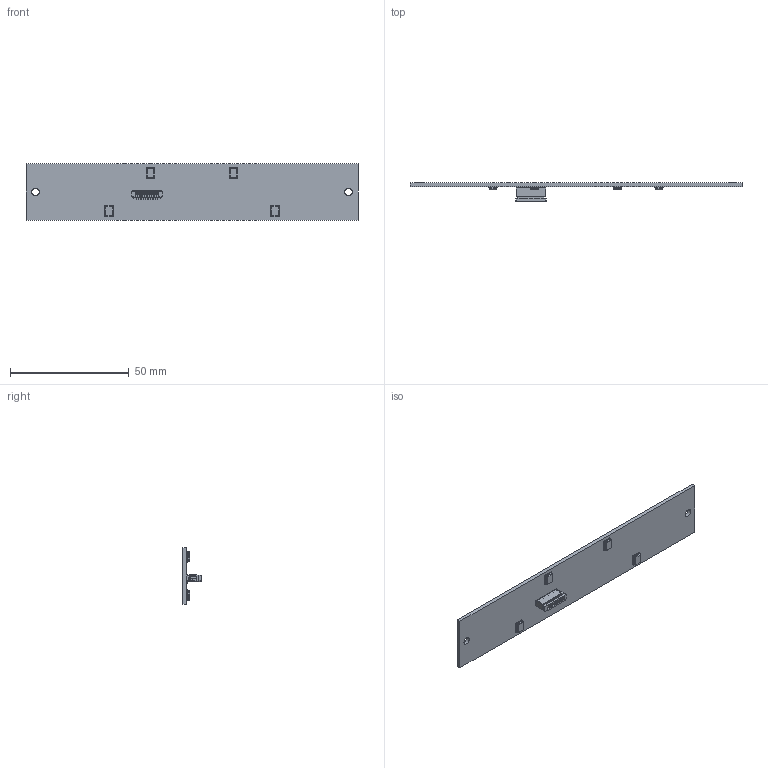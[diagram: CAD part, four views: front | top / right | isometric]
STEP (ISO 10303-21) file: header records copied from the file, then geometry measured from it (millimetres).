
FILE_DESCRIPTION((''),'2;1');
FILE_NAME('MIC_PCB_ASSY_ASM','2020-08-21T',('G6003023'),(''),'PRO/ENGINEER BY PARAMETRIC TECHNOLOGY CORPORATION, 2013150','PRO/ENGINEER BY PARAMETRIC TECHNOLOGY CORPORATION, 2013150','');
FILE_SCHEMA(('CONFIG_CONTROL_DESIGN'));
Length unit declared in the file: millimetre
Products named in the file (18): MIC_PCB; SPM0687LR5X_REV_1_SW; MSBR-13-001; MSBR-12-001; MSBR-11-001; MSBR-10-001; MSBR-9-001; MSBR-8-001; MSBR-7-001; MSBR-6-001; MSBR-5-001; MSBR-4-001; MSBR-3-001; MSBR-2-001; MSBR-1-001; HS6110E-10PIN_ASM; SH1_0MM-10P; MIC_PCB_ASSY_ASM
Assembly tree (20 placements, depth 3):
  MIC_PCB_ASSY_ASM
    MIC_PCB
    SPM0687LR5X_REV_1_SW  x4
    HS6110E-10PIN_ASM
      MSBR-13-001
      MSBR-12-001
      MSBR-11-001
      MSBR-10-001
      MSBR-9-001
      MSBR-8-001
      MSBR-7-001
      MSBR-6-001
      MSBR-5-001
      MSBR-4-001
      MSBR-3-001
      MSBR-2-001
      MSBR-1-001
    SH1_0MM-10P
Bounding box: 140 x 7.8 x 24 mm (x, y, z)
Volume: 5564 mm3; surface area: 8330.9 mm2
Topology: 19 solids, 19 shells, 1705 faces, 4737 edges, 3102 vertices
Faces by surface type: plane 1195, cylinder 398, bspline 112
Entity records: 47999 total; most frequent: CARTESIAN_POINT 8980, ORIENTED_EDGE 8298, DIRECTION 7757, EDGE_CURVE 4149, VECTOR 3449, LINE 3449, VERTEX_POINT 2730, AXIS2_PLACEMENT_3D 2154
